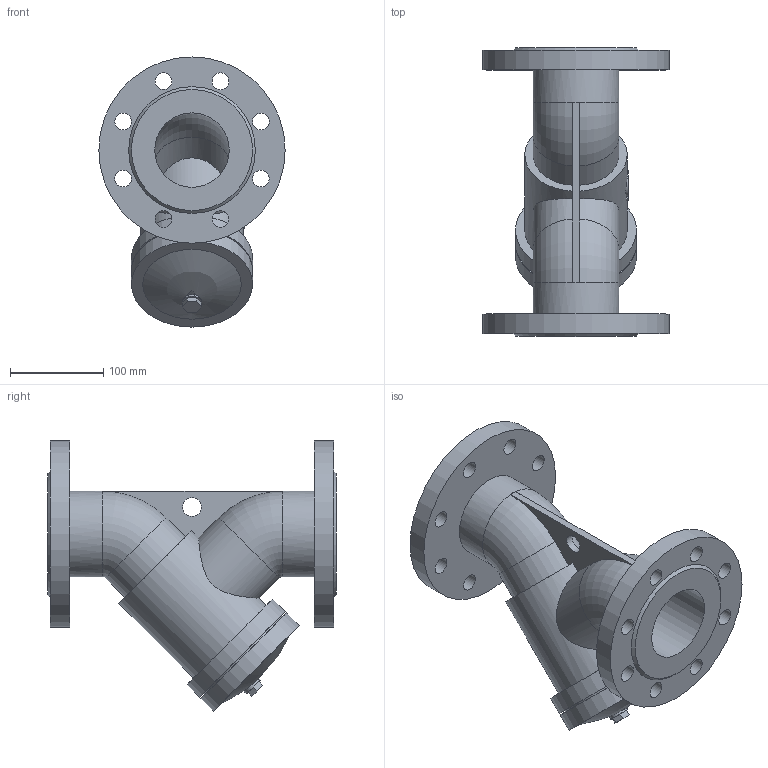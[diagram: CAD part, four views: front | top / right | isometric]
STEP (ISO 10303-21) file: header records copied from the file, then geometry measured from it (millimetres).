
FILE_DESCRIPTION(('STEP AP203'), '1');
FILE_NAME('Ôèëüòð ñåò÷àòûé ôëàíöåâûé 021Y DN80 PN10_PN16', '', ('UNSPECIFIED'), ('UNSPECIFIED'), 'ASCON STEP Converter 1.6', 'ASCON Math Kernel', '');
FILE_SCHEMA(('CONFIG_CONTROL_DESIGN'));
Length unit declared in the file: millimetre
Bounding box: 200 x 310 x 290 mm (x, y, z)
Volume: 3110074.3 mm3; surface area: 361619.7 mm2
Topology: 1 solids, 1 shells, 84 faces, 194 edges, 125 vertices
Faces by surface type: cylinder 40, plane 37, torus 4, cone 2, sphere 1
Full cylindrical faces by diameter (mm): 18 x16, 20 x1, 21 x1, 80 x4, 92 x2, 110 x1, 118 x1, 130 x2, 200 x2
Entity records: 4151 total; most frequent: CARTESIAN_POINT 1555, DIRECTION 399, ORIENTED_EDGE 314, AXIS2_PLACEMENT_3D 170, EDGE_LOOP 167, EDGE_CURVE 157, VERTEX_POINT 124, FACE_BOUND 102
